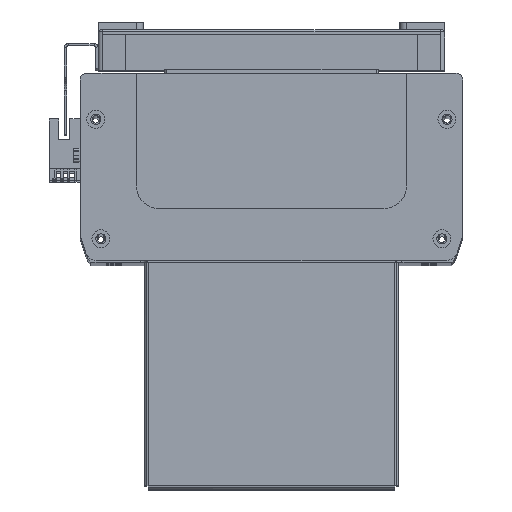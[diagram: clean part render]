
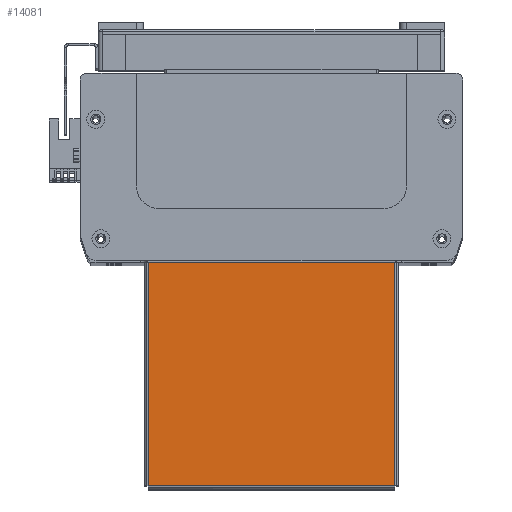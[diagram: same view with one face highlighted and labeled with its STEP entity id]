
A CAD part, top view. The second image highlights one B-rep face of the part: STEP entity #14081.
In plain terms, the highlighted planar face has unit normal (0, 0, 1).
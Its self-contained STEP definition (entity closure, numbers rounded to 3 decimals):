
#29 = VERTEX_POINT ( 'NONE', #42056 ) ;
#14081 = ADVANCED_FACE ( 'NONE', ( #16486 ), #42518, .T. ) ;
#15225 = CARTESIAN_POINT ( 'NONE',  ( -55.5, 50., 0. ) ) ;
#15231 = DIRECTION ( 'NONE',  ( -1., 0., 0. ) ) ;
#15478 = DIRECTION ( 'NONE',  ( 1., 0., 0. ) ) ;
#15517 = CARTESIAN_POINT ( 'NONE',  ( -54.793, -49.263, 0. ) ) ;
#15520 = DIRECTION ( 'NONE',  ( 0., 1., 0. ) ) ;
#15524 = DIRECTION ( 'NONE',  ( 0., -1., 0. ) ) ;
#15546 = CARTESIAN_POINT ( 'NONE',  ( -54.763, 50., 0. ) ) ;
#15561 = CARTESIAN_POINT ( 'NONE',  ( 54.763, -49.293, 0. ) ) ;
#16486 = FACE_OUTER_BOUND ( 'NONE', #36498, .T. ) ;
#17740 = VECTOR ( 'NONE', #15231, 1000. ) ;
#17769 = LINE ( 'NONE', #15225, #17740 ) ;
#17910 = LINE ( 'NONE', #15561, #17914 ) ;
#17914 = VECTOR ( 'NONE', #15520, 1000. ) ;
#17933 = LINE ( 'NONE', #15546, #17937 ) ;
#17937 = VECTOR ( 'NONE', #15524, 1000. ) ;
#17942 = LINE ( 'NONE', #15517, #17946 ) ;
#17946 = VECTOR ( 'NONE', #15478, 1000. ) ;
#23512 = ORIENTED_EDGE ( 'NONE', *, *, #47942, .T. ) ;
#23567 = ORIENTED_EDGE ( 'NONE', *, *, #47958, .T. ) ;
#23666 = ORIENTED_EDGE ( 'NONE', *, *, #47840, .T. ) ;
#23752 = ORIENTED_EDGE ( 'NONE', *, *, #47961, .T. ) ;
#27274 = AXIS2_PLACEMENT_3D ( 'NONE', #42522, #42572, #42580 ) ;
#32891 = CARTESIAN_POINT ( 'NONE',  ( -54.763, 50., 0. ) ) ;
#32925 = CARTESIAN_POINT ( 'NONE',  ( -54.763, -49.263, 0. ) ) ;
#32933 = CARTESIAN_POINT ( 'NONE',  ( 54.763, -49.263, 0. ) ) ;
#36498 = EDGE_LOOP ( 'NONE', ( #23752, #23512, #23567, #23666 ) ) ;
#42056 = CARTESIAN_POINT ( 'NONE',  ( 54.763, 50., 0. ) ) ;
#42518 = PLANE ( 'NONE',  #27274 ) ;
#42522 = CARTESIAN_POINT ( 'NONE',  ( 0., 0., 0. ) ) ;
#42572 = DIRECTION ( 'NONE',  ( 0., 0., 1. ) ) ;
#42580 = DIRECTION ( 'NONE',  ( 1., 0., 0. ) ) ;
#42589 = VERTEX_POINT ( 'NONE', #32891 ) ;
#42591 = VERTEX_POINT ( 'NONE', #32933 ) ;
#42625 = VERTEX_POINT ( 'NONE', #32925 ) ;
#47840 = EDGE_CURVE ( 'NONE', #29, #42589, #17769, .T. ) ;
#47942 = EDGE_CURVE ( 'NONE', #42625, #42591, #17942, .T. ) ;
#47958 = EDGE_CURVE ( 'NONE', #42591, #29, #17910, .T. ) ;
#47961 = EDGE_CURVE ( 'NONE', #42589, #42625, #17933, .T. ) ;
